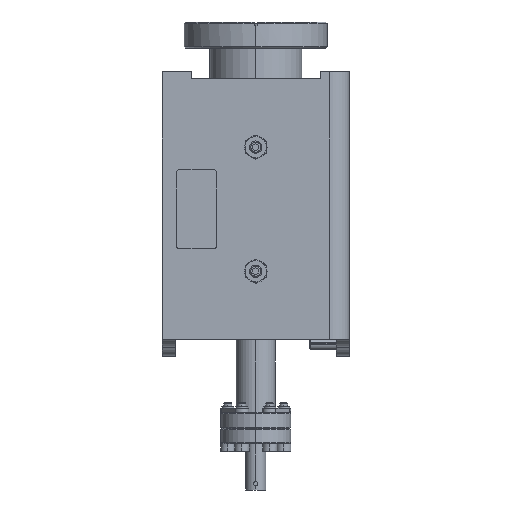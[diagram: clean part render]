
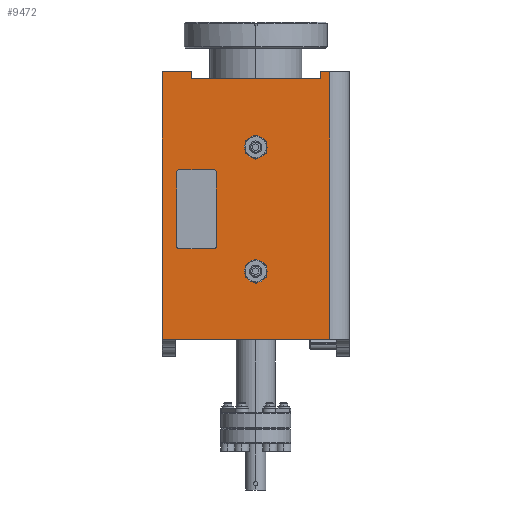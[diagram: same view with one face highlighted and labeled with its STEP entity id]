
A CAD part, left-side view. The second image highlights one B-rep face of the part: STEP entity #9472.
In plain terms, the highlighted planar face has unit normal (-1, 0, 0).
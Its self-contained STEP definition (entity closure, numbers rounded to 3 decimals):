
#317=DIRECTION('',(0.,1.,0.));
#318=VECTOR('',#317,14.1);
#319=CARTESIAN_POINT('',(-82.15,33.275,66.404));
#320=LINE('',#319,#318);
#321=DIRECTION('',(0.,0.,-1.));
#322=VECTOR('',#321,3.404);
#323=CARTESIAN_POINT('',(-82.15,33.275,66.404));
#324=LINE('',#323,#322);
#325=DIRECTION('',(0.,-1.,0.));
#326=VECTOR('',#325,62.15);
#327=CARTESIAN_POINT('',(-82.15,33.275,63.));
#328=LINE('',#327,#326);
#329=CARTESIAN_POINT('',(-82.15,2.2,30.));
#330=DIRECTION('',(1.,0.,0.));
#331=DIRECTION('',(0.,0.866,-0.5));
#332=AXIS2_PLACEMENT_3D('',#329,#330,#331);
#334=CARTESIAN_POINT('',(-82.15,2.2,30.));
#335=DIRECTION('',(1.,0.,0.));
#336=DIRECTION('',(0.,-0.866,0.5));
#337=AXIS2_PLACEMENT_3D('',#334,#335,#336);
#339=CARTESIAN_POINT('',(-82.15,2.2,-30.));
#340=DIRECTION('',(1.,0.,0.));
#341=DIRECTION('',(0.,0.866,-0.5));
#342=AXIS2_PLACEMENT_3D('',#339,#340,#341);
#344=CARTESIAN_POINT('',(-82.15,2.2,-30.));
#345=DIRECTION('',(1.,0.,0.));
#346=DIRECTION('',(0.,-0.866,0.5));
#347=AXIS2_PLACEMENT_3D('',#344,#345,#346);
#349=DIRECTION('',(0.,1.,0.));
#350=VECTOR('',#349,17.05);
#351=CARTESIAN_POINT('',(-82.15,22.325,19.05));
#352=LINE('',#351,#350);
#353=CARTESIAN_POINT('',(-82.15,39.375,18.05));
#354=DIRECTION('',(1.,0.,0.));
#355=DIRECTION('',(0.,1.,0.));
#356=AXIS2_PLACEMENT_3D('',#353,#354,#355);
#358=DIRECTION('',(0.,0.,-1.));
#359=VECTOR('',#358,36.1);
#360=CARTESIAN_POINT('',(-82.15,40.375,18.05));
#361=LINE('',#360,#359);
#362=CARTESIAN_POINT('',(-82.15,39.375,-18.05));
#363=DIRECTION('',(1.,0.,0.));
#364=DIRECTION('',(0.,0.,-1.));
#365=AXIS2_PLACEMENT_3D('',#362,#363,#364);
#367=DIRECTION('',(0.,-1.,0.));
#368=VECTOR('',#367,17.05);
#369=CARTESIAN_POINT('',(-82.15,39.375,-19.05));
#370=LINE('',#369,#368);
#371=CARTESIAN_POINT('',(-82.15,22.325,-18.05));
#372=DIRECTION('',(1.,0.,0.));
#373=DIRECTION('',(0.,-1.,0.));
#374=AXIS2_PLACEMENT_3D('',#371,#372,#373);
#376=DIRECTION('',(0.,0.,1.));
#377=VECTOR('',#376,36.1);
#378=CARTESIAN_POINT('',(-82.15,21.325,-18.05));
#379=LINE('',#378,#377);
#380=CARTESIAN_POINT('',(-82.15,22.325,18.05));
#381=DIRECTION('',(1.,0.,0.));
#382=DIRECTION('',(0.,0.,1.));
#383=AXIS2_PLACEMENT_3D('',#380,#381,#382);
#389=DIRECTION('',(0.,0.,-1.));
#390=VECTOR('',#389,129.404);
#391=CARTESIAN_POINT('',(-82.15,47.375,66.404));
#392=LINE('',#391,#390);
#790=DIRECTION('',(0.,-1.,0.));
#791=VECTOR('',#790,80.825);
#792=CARTESIAN_POINT('',(-82.15,47.375,-63.));
#793=LINE('',#792,#791);
#1182=DIRECTION('',(0.,0.,1.));
#1183=VECTOR('',#1182,129.404);
#1184=CARTESIAN_POINT('',(-82.15,-33.45,-63.));
#1185=LINE('',#1184,#1183);
#1200=DIRECTION('',(0.,-1.,0.));
#1201=VECTOR('',#1200,4.575);
#1202=CARTESIAN_POINT('',(-82.15,-28.875,66.404));
#1203=LINE('',#1202,#1201);
#1208=DIRECTION('',(0.,0.,-1.));
#1209=VECTOR('',#1208,3.404);
#1210=CARTESIAN_POINT('',(-82.15,-28.875,66.404));
#1211=LINE('',#1210,#1209);
#8461=CARTESIAN_POINT('',(-82.15,-33.45,-63.));
#8463=VERTEX_POINT('',#8461);
#8583=CARTESIAN_POINT('',(-82.15,47.375,-63.));
#8585=VERTEX_POINT('',#8583);
#8653=CARTESIAN_POINT('',(-82.15,-28.875,66.404));
#8655=VERTEX_POINT('',#8653);
#8659=CARTESIAN_POINT('',(-82.15,-33.45,66.404));
#8661=VERTEX_POINT('',#8659);
#8675=CARTESIAN_POINT('',(-82.15,-28.875,63.));
#8676=VERTEX_POINT('',#8675);
#8678=CARTESIAN_POINT('',(-82.15,33.275,66.404));
#8680=VERTEX_POINT('',#8678);
#8681=CARTESIAN_POINT('',(-82.15,47.375,66.404));
#8682=VERTEX_POINT('',#8681);
#8695=CARTESIAN_POINT('',(-82.15,33.275,63.));
#8696=VERTEX_POINT('',#8695);
#9017=CARTESIAN_POINT('',(-82.15,6.963,27.25));
#9018=CARTESIAN_POINT('',(-82.15,-2.563,32.75));
#9019=VERTEX_POINT('',#9017);
#9020=VERTEX_POINT('',#9018);
#9089=CARTESIAN_POINT('',(-82.15,6.963,-32.75));
#9090=CARTESIAN_POINT('',(-82.15,-2.563,-27.25));
#9091=VERTEX_POINT('',#9089);
#9092=VERTEX_POINT('',#9090);
#9113=CARTESIAN_POINT('',(-82.15,22.325,19.05));
#9114=CARTESIAN_POINT('',(-82.15,39.375,19.05));
#9115=VERTEX_POINT('',#9113);
#9116=VERTEX_POINT('',#9114);
#9117=CARTESIAN_POINT('',(-82.15,40.375,18.05));
#9118=CARTESIAN_POINT('',(-82.15,40.375,-18.05));
#9119=VERTEX_POINT('',#9117);
#9120=VERTEX_POINT('',#9118);
#9121=CARTESIAN_POINT('',(-82.15,39.375,-19.05));
#9122=CARTESIAN_POINT('',(-82.15,22.325,-19.05));
#9123=VERTEX_POINT('',#9121);
#9124=VERTEX_POINT('',#9122);
#9125=CARTESIAN_POINT('',(-82.15,21.325,-18.05));
#9126=CARTESIAN_POINT('',(-82.15,21.325,18.05));
#9127=VERTEX_POINT('',#9125);
#9128=VERTEX_POINT('',#9126);
#9420=CARTESIAN_POINT('',(-82.15,41.025,63.));
#9421=DIRECTION('',(-1.,0.,0.));
#9422=DIRECTION('',(0.,-1.,0.));
#9423=AXIS2_PLACEMENT_3D('',#9420,#9421,#9422);
#9424=PLANE('',#9423);
#9426=ORIENTED_EDGE('',*,*,#9425,.F.);
#9428=ORIENTED_EDGE('',*,*,#9427,.F.);
#9430=ORIENTED_EDGE('',*,*,#9429,.T.);
#9432=ORIENTED_EDGE('',*,*,#9431,.T.);
#9434=ORIENTED_EDGE('',*,*,#9433,.F.);
#9436=ORIENTED_EDGE('',*,*,#9435,.T.);
#9438=ORIENTED_EDGE('',*,*,#9437,.F.);
#9440=ORIENTED_EDGE('',*,*,#9439,.F.);
#9441=EDGE_LOOP('',(#9426,#9428,#9430,#9432,#9434,#9436,#9438,#9440));
#9442=FACE_OUTER_BOUND('',#9441,.F.);
#9444=ORIENTED_EDGE('',*,*,#9443,.F.);
#9446=ORIENTED_EDGE('',*,*,#9445,.F.);
#9447=EDGE_LOOP('',(#9444,#9446));
#9448=FACE_BOUND('',#9447,.F.);
#9449=ORIENTED_EDGE('',*,*,#9410,.F.);
#9451=ORIENTED_EDGE('',*,*,#9450,.F.);
#9452=EDGE_LOOP('',(#9449,#9451));
#9453=FACE_BOUND('',#9452,.F.);
#9455=ORIENTED_EDGE('',*,*,#9454,.T.);
#9457=ORIENTED_EDGE('',*,*,#9456,.F.);
#9459=ORIENTED_EDGE('',*,*,#9458,.T.);
#9461=ORIENTED_EDGE('',*,*,#9460,.F.);
#9463=ORIENTED_EDGE('',*,*,#9462,.T.);
#9465=ORIENTED_EDGE('',*,*,#9464,.F.);
#9467=ORIENTED_EDGE('',*,*,#9466,.T.);
#9469=ORIENTED_EDGE('',*,*,#9468,.F.);
#9470=EDGE_LOOP('',(#9455,#9457,#9459,#9461,#9463,#9465,#9467,#9469));
#9471=FACE_BOUND('',#9470,.F.);
#9472=ADVANCED_FACE('',(#9442,#9448,#9453,#9471),#9424,.T.);
#333=CIRCLE('',#332,5.5);
#338=CIRCLE('',#337,5.5);
#343=CIRCLE('',#342,5.5);
#348=CIRCLE('',#347,5.5);
#357=CIRCLE('',#356,1.);
#366=CIRCLE('',#365,1.);
#375=CIRCLE('',#374,1.);
#384=CIRCLE('',#383,1.);
#9410=EDGE_CURVE('',#9091,#9092,#343,.T.);
#9425=EDGE_CURVE('',#8682,#8585,#392,.T.);
#9427=EDGE_CURVE('',#8680,#8682,#320,.T.);
#9429=EDGE_CURVE('',#8680,#8696,#324,.T.);
#9431=EDGE_CURVE('',#8696,#8676,#328,.T.);
#9433=EDGE_CURVE('',#8655,#8676,#1211,.T.);
#9435=EDGE_CURVE('',#8655,#8661,#1203,.T.);
#9437=EDGE_CURVE('',#8463,#8661,#1185,.T.);
#9439=EDGE_CURVE('',#8585,#8463,#793,.T.);
#9443=EDGE_CURVE('',#9019,#9020,#333,.T.);
#9445=EDGE_CURVE('',#9020,#9019,#338,.T.);
#9450=EDGE_CURVE('',#9092,#9091,#348,.T.);
#9454=EDGE_CURVE('',#9115,#9116,#352,.T.);
#9456=EDGE_CURVE('',#9119,#9116,#357,.T.);
#9458=EDGE_CURVE('',#9119,#9120,#361,.T.);
#9460=EDGE_CURVE('',#9123,#9120,#366,.T.);
#9462=EDGE_CURVE('',#9123,#9124,#370,.T.);
#9464=EDGE_CURVE('',#9127,#9124,#375,.T.);
#9466=EDGE_CURVE('',#9127,#9128,#379,.T.);
#9468=EDGE_CURVE('',#9115,#9128,#384,.T.);
